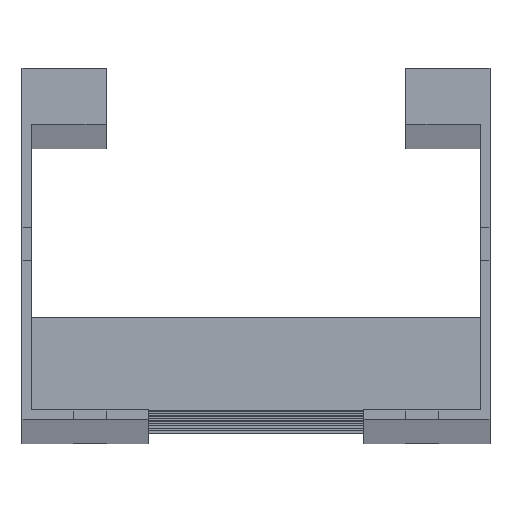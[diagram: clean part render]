
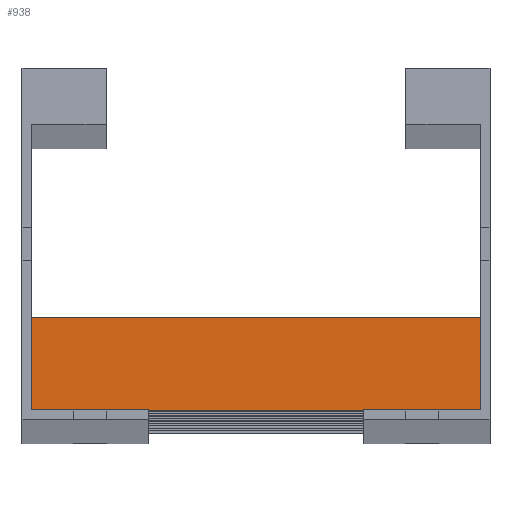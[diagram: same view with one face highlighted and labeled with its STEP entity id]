
A CAD part, top view. The second image highlights one B-rep face of the part: STEP entity #938.
In plain terms, the highlighted planar face has unit normal (0, 0, 1).
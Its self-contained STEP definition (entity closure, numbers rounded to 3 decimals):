
#43 = CARTESIAN_POINT ( 'NONE',  ( -48., 20., 20.25 ) ) ;
#190 = LINE ( 'NONE', #1398, #431 ) ;
#205 = VERTEX_POINT ( 'NONE', #636 ) ;
#251 = VERTEX_POINT ( 'NONE', #43 ) ;
#332 = VERTEX_POINT ( 'NONE', #1500 ) ;
#335 = AXIS2_PLACEMENT_3D ( 'NONE', #1499, #383, #1705 ) ;
#383 = DIRECTION ( 'NONE',  ( 0., 0., -1. ) ) ;
#392 = ORIENTED_EDGE ( 'NONE', *, *, #1703, .F. ) ;
#431 = VECTOR ( 'NONE', #1515, 1000. ) ;
#432 = VECTOR ( 'NONE', #672, 1000. ) ;
#439 = FACE_OUTER_BOUND ( 'NONE', #1243, .T. ) ;
#538 = LINE ( 'NONE', #1598, #432 ) ;
#539 = CARTESIAN_POINT ( 'NONE',  ( 48., 20., 20.25 ) ) ;
#636 = CARTESIAN_POINT ( 'NONE',  ( 48., 0., 20.25 ) ) ;
#672 = DIRECTION ( 'NONE',  ( -1., 0., 0. ) ) ;
#679 = ORIENTED_EDGE ( 'NONE', *, *, #1104, .F. ) ;
#689 = VECTOR ( 'NONE', #948, 1000. ) ;
#760 = ORIENTED_EDGE ( 'NONE', *, *, #869, .T. ) ;
#773 = ORIENTED_EDGE ( 'NONE', *, *, #807, .T. ) ;
#807 = EDGE_CURVE ( 'NONE', #1574, #251, #1074, .T. ) ;
#869 = EDGE_CURVE ( 'NONE', #251, #332, #190, .T. ) ;
#924 = LINE ( 'NONE', #1095, #1547 ) ;
#938 = ADVANCED_FACE ( 'NONE', ( #439 ), #973, .F. ) ;
#948 = DIRECTION ( 'NONE',  ( -1., 0., 0. ) ) ;
#973 = PLANE ( 'NONE',  #335 ) ;
#1074 = LINE ( 'NONE', #539, #689 ) ;
#1095 = CARTESIAN_POINT ( 'NONE',  ( 48., 20., 20.25 ) ) ;
#1104 = EDGE_CURVE ( 'NONE', #205, #332, #538, .T. ) ;
#1243 = EDGE_LOOP ( 'NONE', ( #760, #679, #392, #773 ) ) ;
#1398 = CARTESIAN_POINT ( 'NONE',  ( -48., 20., 20.25 ) ) ;
#1457 = CARTESIAN_POINT ( 'NONE',  ( 48., 20., 20.25 ) ) ;
#1491 = DIRECTION ( 'NONE',  ( 0., -1., 0. ) ) ;
#1499 = CARTESIAN_POINT ( 'NONE',  ( 48., 20., 20.25 ) ) ;
#1500 = CARTESIAN_POINT ( 'NONE',  ( -48., 0., 20.25 ) ) ;
#1515 = DIRECTION ( 'NONE',  ( 0., -1., 0. ) ) ;
#1547 = VECTOR ( 'NONE', #1491, 1000. ) ;
#1574 = VERTEX_POINT ( 'NONE', #1457 ) ;
#1598 = CARTESIAN_POINT ( 'NONE',  ( 48., 0., 20.25 ) ) ;
#1703 = EDGE_CURVE ( 'NONE', #1574, #205, #924, .T. ) ;
#1705 = DIRECTION ( 'NONE',  ( 0., 1., 0. ) ) ;
